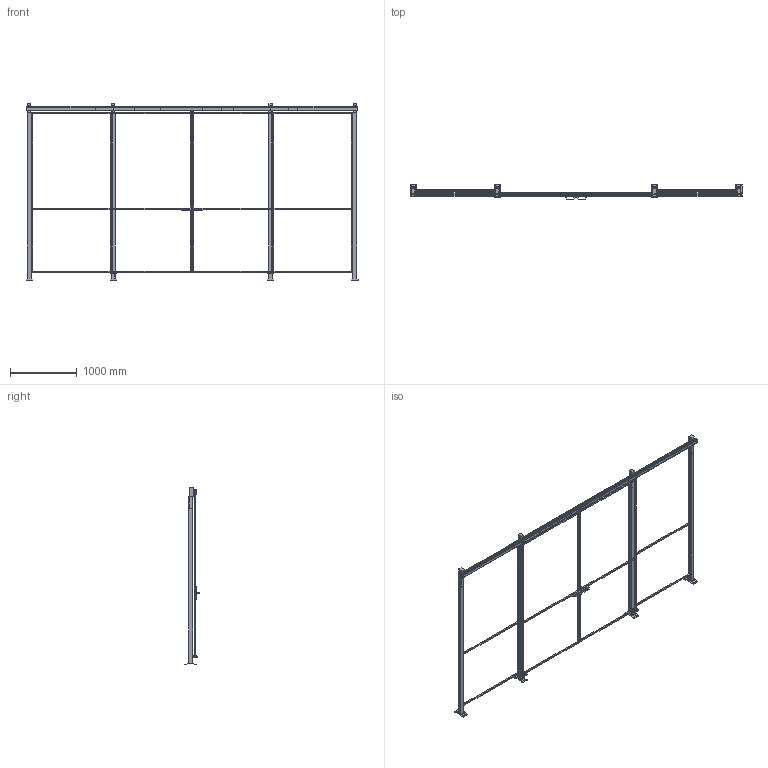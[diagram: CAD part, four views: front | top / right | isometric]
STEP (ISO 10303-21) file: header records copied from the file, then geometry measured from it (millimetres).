
FILE_DESCRIPTION(/* description */ (''),/* implementation_level */ '2;1');
FILE_NAME(/* name */ 'C:\SafeGuarding\ELABORATI\HOR§VED_2025-04-01-11-43-09.stp',/* time_stamp */ '2025-04-01T11:43:11+02:00',/* author */ ('admin'),/* organization */ (''),/* preprocessor_version */ 'ST-DEVELOPER v18.1',/* originating_system */ 'AutoCAD Mechanical',/* authorisation */ '');
FILE_SCHEMA (('AUTOMOTIVE_DESIGN { 1 0 10303 214 3 1 1 }'));
Length unit declared in the file: millimetre
Products named in the file (3): Product; VFPA.REPE2012002400; P_VFMA.V260SDU.2520
Assembly tree (8 placements, depth 2):
  Product
    VFPA.REPE2012002400  x4
    P_VFMA.V260SDU.2520  x4
Bounding box: 4979.99 x 235.91 x 2654 mm (x, y, z)
Volume: 65821952.6 mm3; surface area: 9789551.7 mm2
Topology: 42 solids, 64 shells, 630 faces, 2240 edges, 2220 vertices
Faces by surface type: plane 574, cylinder 56
Full cylindrical faces by diameter (mm): 11 x16, 12 x4, 14 x4, 15 x8, 40 x8
Entity records: 17623 total; most frequent: CARTESIAN_POINT 3689, ORIENTED_EDGE 2676, DIRECTION 2622, EDGE_CURVE 1436, LINE 1284, VECTOR 1284, VERTEX_POINT 1040, AXIS2_PLACEMENT_3D 669
